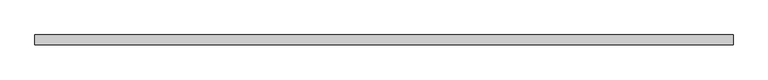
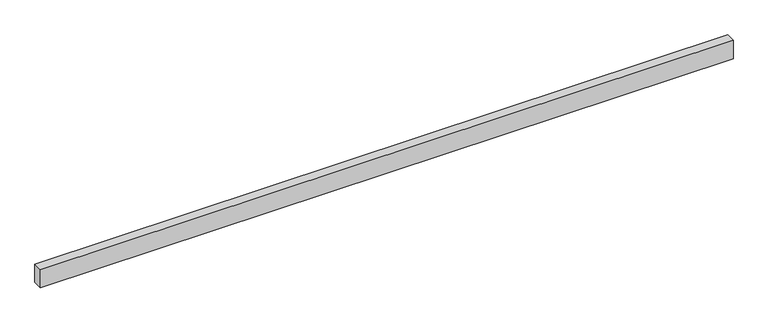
"""IFC4 building model written with IfcOpenShell, lengths in millimetres: beam geometry, Деревянный брус : 50х100."""

from ifc_helpers import new_model, si_unit, frame, origin, place, context, project, spatial, polyline, outline, extrude, source, transform, mapped, element, save


def beam_29c01288(model_context):
    return source(origin(), model_context, "Body", "SweptSolid", [
        extrude(outline(polyline([(1800.0, 25.0), (1800.0, -25.0), (-1800.0, -25.0), (-1800.0, 25.0), (1800.0, 25.0)])), frame((0.0, 0.0, -50.0), z_axis=(0.0, 0.0, 1.0), x_axis=(1.0, 0.0, 0.0)), (0.0, 0.0, 1.0), 100.0),
    ])


if __name__ == "__main__":
    model = new_model("IFC4")
    model_context = context("Model", 3, world=origin())
    ifc_project = project(units=[si_unit("LENGTHUNIT", "METRE", prefix="MILLI")], contexts=[model_context])
    site = spatial("IfcSite", under=ifc_project)
    building = spatial("IfcBuilding", under=site)
    placement = place(None, origin())
    beam_shape = beam_29c01288(model_context)
    element("IfcBeam", 1, ObjectType="Деревянный брус : 50х100", at=placement, inside=building, context=model_context, shape_type="MappedRepresentation", body=[
        mapped(beam_shape, transform((0.0, 0.0, 0.0), x_axis=(1.0, 0.0, 0.0), y_axis=(0.0, 1.0, 0.0), z_axis=(0.0, 0.0, 1.0))),
    ])
    save(model, "model.ifc")
